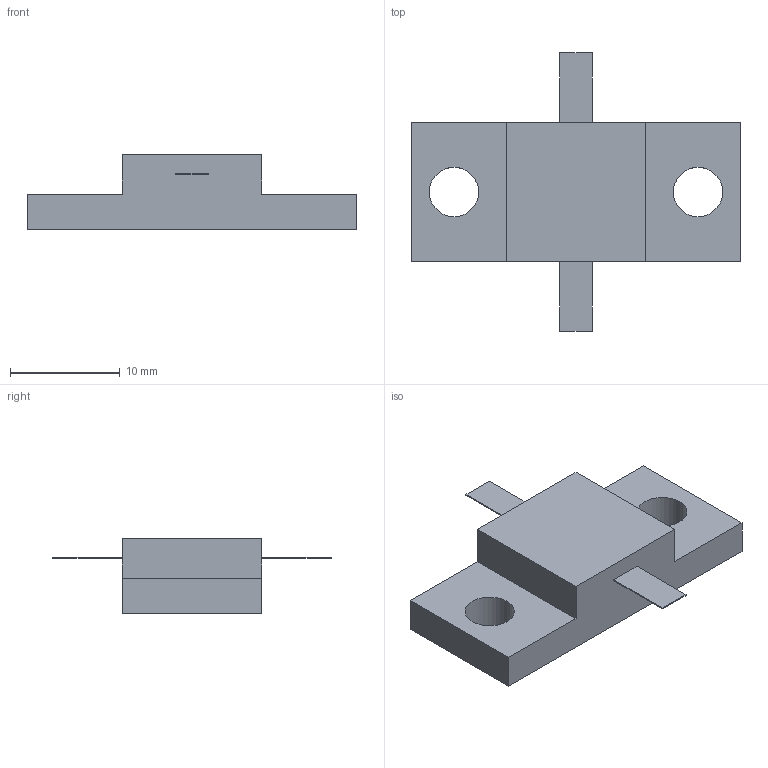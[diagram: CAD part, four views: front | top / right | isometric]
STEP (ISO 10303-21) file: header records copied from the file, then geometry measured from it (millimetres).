
FILE_DESCRIPTION(('STEP AP203'), '1');
FILE_NAME('P1-170-400-44', '', ('UNSPECIFIED'), ('UNSPECIFIED'), 'ASCON STEP Converter 1.6', 'ASCON Math Kernel', '');
FILE_SCHEMA(('CONFIG_CONTROL_DESIGN'));
Length unit declared in the file: millimetre
Bounding box: 30 x 25.3 x 6.8 mm (x, y, z)
Volume: 1701.8 mm3; surface area: 1323.1 mm2
Topology: 1 solids, 1 shells, 22 faces, 54 edges, 36 vertices
Faces by surface type: plane 20, cylinder 2
Full cylindrical faces by diameter (mm): 4.5 x2
Entity records: 860 total; most frequent: CARTESIAN_POINT 111, ORIENTED_EDGE 104, DIRECTION 102, EDGE_CURVE 52, LINE 48, VECTOR 48, VERTEX_POINT 36, EDGE_LOOP 30
